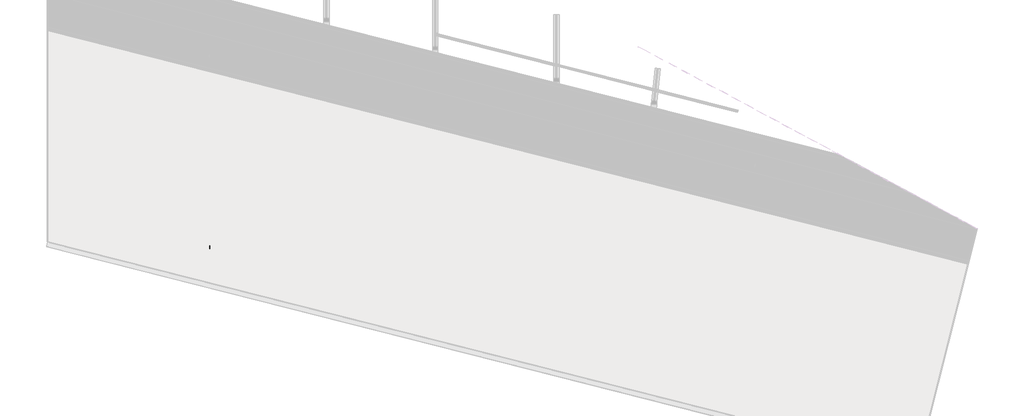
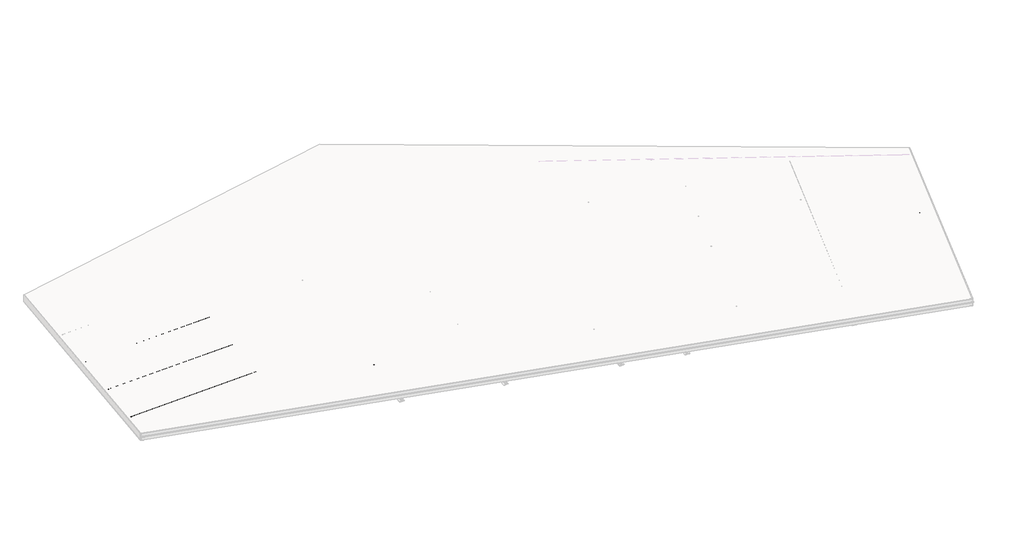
# One storey, part 3 of 10: 8 beams.
"""IFC4 building model written with IfcOpenShell, lengths in millimetres."""

from ifc_helpers import new_model, si_unit, frame, origin, place, context, project, spatial, polyline, circle_curve, ellipse_curve, transform, mapped, element, save
from ifc_brep_helpers import plane_surface, cylinder_surface, revolved_surface, advanced_brep
from components import ipe_ipe180_58f06dd5, ipe_ipe180_47fa68d9, ipe_ipe180_d82c8111, ipe_ipe180_68082427

model = new_model("IFC4")

# Units and contexts
model_context = context("Model", 3, world=origin())
ifc_project = project(units=[si_unit("LENGTHUNIT", "METRE", prefix="MILLI")], contexts=[model_context])

# Site, building, storey
site = spatial("IfcSite", under=ifc_project)
building = spatial("IfcBuilding", under=site)
storey = spatial("IfcBuildingStorey", under=building, Name="2 Toiture batiment", Elevation=872910.0)

# Beams
placement = place(None, origin())
element("IfcBeam", 1, ObjectType="IPE : IPE160", at=placement, inside=storey, context=model_context, shape_type="AdvancedBrep", body=[
    advanced_brep(
    [(29200.3644129, 1340.734446, 872989.5232206), (29200.3644129, 1310.5203842, 872985.9240678), (33048.0031572, 330.9837712, 872983.7899484), (33048.0031572, 361.197833, 872987.3891012), (29200.3644129, 1348.8204858, 872999.5540338), (33048.0031572, 369.2838728, 872997.4199144), (29290.6644129, 1309.8355583, 873125.7537158), (29290.6644129, 1312.2573229, 873106.6400261), (29201.3644129, 1334.6684761, 873109.2384349), (29200.3644129, 1335.0451461, 873108.2754081), (33048.0031572, 355.6094225, 873105.3450234), (33047.0031572, 355.7346479, 873106.3665138), (32957.7031572, 378.1426362, 873108.9899016), (32957.7031572, 376.2763159, 873123.7197674), (29290.6644129, 1299.4858994, 873133.5884357), (32957.7031572, 365.926657, 873131.5544873), (29290.6644129, 1269.2718375, 873129.9892828), (32957.7031572, 335.7125952, 873127.9553345), (29290.6644129, 1268.3412386, 873137.334002), (32957.7031572, 334.7819962, 873135.3000537), (29290.6644129, 1352.3260884, 873147.3384269), (32957.7031572, 418.766846, 873145.3044785), (29290.6644129, 1353.2566873, 873139.9937077), (32957.7031572, 419.697445, 873137.9597594), (29290.6644129, 1323.0426255, 873136.3945549), (32957.7031572, 389.4833831, 873134.3606065), (29290.6644129, 1314.9565857, 873126.3637417), (32957.7031572, 381.3973434, 873124.3297933), (29290.6644129, 1317.3803832, 873107.2340073), (32957.7031572, 383.2649731, 873109.5895929), (33047.0031572, 360.8569848, 873106.9662051), (33048.0031572, 360.7317593, 873105.9447147), (33048.0031572, 374.4049002, 872998.0299403), (29200.3644129, 1353.9415132, 873000.1640597), (29200.3644129, 1340.1682064, 873108.8693893), (29201.3644129, 1339.7915364, 873109.8324161), (29200.3644129, 1364.2911721, 872992.3293398), (33048.0031572, 384.7545592, 872990.1952204), (29200.3644129, 1394.505234, 872995.9284927), (33048.0031572, 414.968621, 872993.7943733), (29200.3644129, 1395.435833, 872988.5837735), (33048.0031572, 415.89922, 872986.4496541), (29200.3644129, 1311.4509832, 872978.5793486), (33048.0031572, 331.9143702, 872976.4452292)],
    [
        (0, 1),
        (1, 2),
        (2, 3),
        (3, 0),
        (4, 0, ellipse_curve(frame((29200.3644129, 1339.6026364, 872998.4559872), z_axis=(-1.0, 0.0, 0.0), x_axis=(0.0, -0.9999976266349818, -0.002178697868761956)), 9.2870751, 9.0)),
        (3, 5, ellipse_curve(frame((33048.0031572, 360.0660234, 872996.3218678), z_axis=(1.0, 0.0, 0.0), x_axis=(0.0, -0.999997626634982, -0.002178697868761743)), 9.2870751, 9.0)),
        (5, 4),
        (6, 7),
        (7, 8),
        (8, 9, ellipse_curve(frame((29201.3644129, 1334.7941813, 873108.2463106), z_axis=(-0.24493637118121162, -0.9618492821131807, -0.12186932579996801), x_axis=(0.9686317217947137, -0.24820333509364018, 0.012152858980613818)), 1.0314759, 1.0)),
        (9, 4),
        (5, 10),
        (10, 11, ellipse_curve(frame((33047.0031572, 355.8603518, 873105.3744006), z_axis=(-0.24493637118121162, -0.9618492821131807, -0.12186932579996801), x_axis=(0.968812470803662, -0.24767732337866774, 0.007638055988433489)), 1.0314643, 1.0)),
        (11, 12),
        (12, 13),
        (13, 6),
        (14, 6, ellipse_curve(frame((29290.6644129, 1300.617709, 873124.6556691), z_axis=(-1.0, 0.0, 0.0), x_axis=(0.0, -0.9999976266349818, -0.002178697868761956)), 9.2870751, 9.0)),
        (13, 15, ellipse_curve(frame((32957.7031572, 367.0584666, 873122.6217208), z_axis=(1.0, 0.0, 0.0), x_axis=(0.0, -0.9999976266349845, -0.0021786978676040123)), 9.2870751, 9.0)),
        (15, 14),
        (16, 14),
        (15, 17),
        (17, 16),
        (18, 16),
        (17, 19),
        (19, 18),
        (20, 18),
        (19, 21),
        (21, 20),
        (22, 20),
        (21, 23),
        (23, 22),
        (24, 22),
        (23, 25),
        (25, 24),
        (26, 24, ellipse_curve(frame((29290.6644129, 1324.1744351, 873127.4617883), z_axis=(-1.0, 0.0, 0.0), x_axis=(0.0, -0.9999976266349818, -0.002178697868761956)), 9.2870751, 9.0)),
        (25, 27, ellipse_curve(frame((32957.7031572, 390.6151927, 873125.4278399), z_axis=(1.0, 0.0, 0.0), x_axis=(0.0, -0.9999976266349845, -0.0021786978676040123)), 9.2870751, 9.0)),
        (27, 26),
        (28, 26),
        (27, 29),
        (29, 30),
        (30, 31, ellipse_curve(frame((33047.0031572, 360.9826886, 873105.9740919), z_axis=(0.24493637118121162, 0.9618492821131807, 0.12186932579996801), x_axis=(0.968812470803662, -0.24767732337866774, 0.007638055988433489)), 1.0314643, 1.0)),
        (31, 32),
        (32, 33),
        (33, 34),
        (34, 35, ellipse_curve(frame((29201.3644129, 1339.9172417, 873108.8402918), z_axis=(0.24493637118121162, 0.9618492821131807, 0.12186932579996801), x_axis=(0.9686317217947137, -0.24820333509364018, 0.012152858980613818)), 1.0314759, 1.0)),
        (35, 28),
        (36, 33, ellipse_curve(frame((29200.3644129, 1363.1593626, 873001.2621064), z_axis=(-1.0, 0.0, 0.0), x_axis=(0.0, -0.9999976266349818, -0.002178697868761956)), 9.2870751, 9.0)),
        (32, 37, ellipse_curve(frame((33048.0031572, 383.6227496, 872999.127987), z_axis=(1.0, 0.0, 0.0), x_axis=(0.0, -0.999997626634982, -0.002178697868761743)), 9.2870751, 9.0)),
        (37, 36),
        (38, 36),
        (37, 39),
        (39, 38),
        (40, 38),
        (39, 41),
        (41, 40),
        (42, 40),
        (41, 43),
        (43, 42),
        (1, 42),
        (43, 2),
        (28, 7),
        (35, 8),
        (34, 9),
        (31, 10),
        (30, 11),
        (29, 12),
    ],
    [
        plane_surface(frame((29170.1523773, 1318.2118014, 872985.9408251), z_axis=(-0.02954959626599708, -0.11823384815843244, 0.9925460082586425), x_axis=(0.9690887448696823, -0.24671180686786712, -0.0005375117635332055))),
        revolved_surface(polyline([(33052.42799607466, 368.15739189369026, 872997.4174601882), (29200.3484287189, 1348.8245550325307, 872999.5540427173)]), (29177.1120539, 1345.5222506, 872998.4688843), (0.9690887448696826, -0.24671180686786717, -0.0005375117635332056)),
        plane_surface(frame((29179.3164813, 1354.1788941, 872999.5657082), z_axis=(-0.24493637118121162, -0.9618492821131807, -0.12186932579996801), x_axis=(0.9690887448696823, -0.24671180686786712, -0.0005375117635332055))),
        revolved_surface(polyline([(32962.12799605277, 375.1498350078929, 873123.717313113), (29290.648428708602, 1309.8396275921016, 873125.7537246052)]), (29173.3533453, 1330.4829051, 873124.7207365), (0.9690887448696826, -0.24671180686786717, -0.0005375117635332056)),
        plane_surface(frame((29173.0873989, 1329.4188005, 873133.6536506), z_axis=(0.02954959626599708, 0.11823384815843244, -0.9925460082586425), x_axis=(0.9690887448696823, -0.24671180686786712, -0.0005375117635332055))),
        plane_surface(frame((29165.861776, 1301.0442466, 873130.0585055), z_axis=(-0.24493637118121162, -0.9618492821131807, -0.12186932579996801), x_axis=(0.9690887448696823, -0.24671180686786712, -0.0005375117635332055))),
        plane_surface(frame((29165.6431089, 1300.1693162, 873137.4033459), z_axis=(-0.02954959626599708, -0.11823384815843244, 0.9925460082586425), x_axis=(0.9690887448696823, -0.24671180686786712, -0.0005375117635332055))),
        plane_surface(frame((29185.7278914, 1379.0409573, 873147.3966307), z_axis=(0.24493637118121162, 0.9618492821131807, 0.12186932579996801), x_axis=(0.9690887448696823, -0.24671180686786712, -0.0005375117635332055))),
        plane_surface(frame((29185.9465584, 1379.9158878, 873140.0517902), z_axis=(0.02954959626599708, 0.11823384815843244, -0.9925460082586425), x_axis=(0.9690887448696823, -0.24671180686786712, -0.0005375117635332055))),
        revolved_surface(polyline([(32962.127996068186, 398.7065611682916, 873126.523432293), (29290.64842872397, 1333.3963537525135, 873128.5598437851)]), (29178.9868818, 1352.6054386, 873127.523731), (0.9690887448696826, -0.24671180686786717, -0.0005375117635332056)),
        plane_surface(frame((29176.7824545, 1343.9487951, 873126.4269071), z_axis=(0.24493637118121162, 0.9618492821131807, 0.12186932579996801), x_axis=(0.9690887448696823, -0.24671180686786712, -0.0005375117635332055))),
        revolved_surface(polyline([(33052.427996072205, 391.7141180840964, 873000.2235793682), (29200.348428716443, 1372.381281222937, 873002.3601618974)]), (29182.7455905, 1367.6447841, 873001.2718788), (0.9690887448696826, -0.24671180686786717, -0.0005375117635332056)),
        plane_surface(frame((29183.0115368, 1368.7088887, 872992.3389647), z_axis=(-0.02954959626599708, -0.11823384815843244, 0.9925460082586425), x_axis=(0.9690887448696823, -0.24671180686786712, -0.0005375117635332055))),
        plane_surface(frame((29190.2371598, 1397.0834425, 872995.9341098), z_axis=(0.24493637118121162, 0.9618492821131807, 0.12186932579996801), x_axis=(0.9690887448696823, -0.24671180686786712, -0.0005375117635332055))),
        plane_surface(frame((29190.4558268, 1397.958373, 872988.5892693), z_axis=(0.02954959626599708, 0.11823384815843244, -0.9925460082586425), x_axis=(0.9690887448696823, -0.24671180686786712, -0.0005375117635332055))),
        plane_surface(frame((29170.3710443, 1319.0867319, 872978.5959846), z_axis=(-0.24493637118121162, -0.9618492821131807, -0.12186932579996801), x_axis=(0.9690887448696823, -0.24671180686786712, -0.0005375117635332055))),
        plane_surface(frame((29290.6644129, 11664.8518841, 874361.9131692), z_axis=(-1.0, 0.0, 0.0), x_axis=(0.0, -0.9933456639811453, -0.11517114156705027))),
        plane_surface(frame((29290.6644129, 11671.1402284, 874307.6764959), z_axis=(0.0, -0.11517114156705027, 0.9933456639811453), x_axis=(0.0, -0.9933456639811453, -0.11517114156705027))),
        cylinder_surface(frame((29201.3644129, 5615.1745573, 873604.52501), z_axis=(0.0, -0.9933456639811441, -0.11517114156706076), x_axis=(0.0, -0.11517114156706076, 0.9933456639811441)), 1.0),
        plane_surface(frame((29200.3644129, 11671.2553996, 874306.6831503), z_axis=(-1.0, 0.0, 0.0), x_axis=(0.0, -0.9933456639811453, -0.11517114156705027))),
        plane_surface(frame((33048.0031572, 12313.5310461, 874123.9169234), z_axis=(1.0, 0.0, 0.0), x_axis=(0.0, -0.9932165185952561, -0.1162796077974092))),
        cylinder_surface(frame((33047.0031572, 5419.220341, 873698.1610717), z_axis=(0.0, -0.9932165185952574, -0.11627960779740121), x_axis=(1.0000000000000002, 0.0, 0.0)), 1.0),
        plane_surface(frame((33047.0031572, 12269.368051, 874501.1405571), z_axis=(0.0, -0.11627960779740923, 0.9932165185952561), x_axis=(0.0, -0.9932165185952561, -0.11627960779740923))),
        plane_surface(frame((32957.7031572, 12269.368051, 874501.1405571), z_axis=(1.0, 0.0, 0.0), x_axis=(0.0, -0.9932165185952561, -0.11627960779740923))),
    ],
    [
        (0, [[1, 2, 3, 4]]),
        (1, [[5, -4, 6, 7]]),
        (2, [[8, 9, 10, 11, -7, 12, 13, 14, 15, 16]]),
        (3, [[17, -16, 18, 19]]),
        (4, [[20, -19, 21, 22]]),
        (5, [[23, -22, 24, 25]]),
        (6, [[26, -25, 27, 28]]),
        (7, [[29, -28, 30, 31]]),
        (8, [[32, -31, 33, 34]]),
        (9, [[35, -34, 36, 37]]),
        (10, [[38, -37, 39, 40, 41, 42, 43, 44, 45, 46]]),
        (11, [[47, -43, 48, 49]]),
        (12, [[50, -49, 51, 52]]),
        (13, [[53, -52, 54, 55]]),
        (14, [[56, -55, 57, 58]]),
        (15, [[59, -58, 60, -2]]),
        (16, [[61, -8, -17, -20, -23, -26, -29, -32, -35, -38]]),
        (17, [[-61, -46, 62, -9]]),
        (18, [[-62, -45, 63, -10]]),
        (19, [[-63, -44, -47, -50, -53, -56, -59, -1, -5, -11]]),
        (20, [[64, -12, -6, -3, -60, -57, -54, -51, -48, -42]]),
        (21, [[-64, -41, 65, -13]]),
        (22, [[-65, -40, 66, -14]]),
        (23, [[-66, -39, -36, -33, -30, -27, -24, -21, -18, -15]]),
    ],
),
])
element("IfcBeam", 2, ObjectType="IPE : IPE160", at=placement, inside=storey, context=model_context, shape_type="AdvancedBrep", body=[
    advanced_brep(
    [(25187.3405236, 2332.1609511, 872985.9408377), (25194.5623723, 2360.5364658, 872989.5359827), (25196.4903239, 2368.1316853, 872999.5657207), (25192.5990737, 2353.1260824, 873125.8175724), (25190.1204735, 2343.4074285, 873133.6536625), (25182.8986248, 2315.0319138, 873130.0585174), (25182.672247, 2314.1589464, 873137.4033578), (25202.7465383, 2393.0332583, 873147.3966425), (25202.9729161, 2393.9062258, 873140.0518021), (25195.7510674, 2365.5307111, 873136.456657), (25193.8231158, 2357.9354916, 873126.426919), (25197.714366, 2372.9410945, 873000.1750673), (25200.1929662, 2382.6597484, 872992.3389772), (25207.4148149, 2411.0352631, 872995.9341223), (25207.6411927, 2411.9082305, 872988.5892819), (25187.5669014, 2333.0339186, 872978.5959972), (29150.9644129, 1323.096697, 872988.1731594), (29150.9644129, 1353.3107589, 872991.7642371), (29150.9644129, 1361.3967986, 873001.7928893), (29150.9644129, 1347.7194036, 873109.7448952), (29149.9644129, 1347.8445278, 873110.7661014), (29060.6644129, 1370.2432272, 873113.3630662), (29060.6644129, 1368.3892417, 873127.9960754), (29060.6644129, 1358.0395828, 873135.8335614), (29060.6644129, 1327.825521, 873132.2424837), (29060.6644129, 1326.894922, 873139.5874516), (29060.6644129, 1410.8797718, 873149.5694304), (29060.6644129, 1411.8103708, 873142.2244625), (29060.6644129, 1381.596309, 873138.6333847), (29060.6644129, 1373.5102692, 873128.6047326), (29060.6644129, 1375.3661166, 873113.9570277), (29149.9644129, 1352.9674172, 873111.3600628), (29150.9644129, 1352.8422929, 873110.3388567), (29150.9644129, 1366.5178261, 873002.4015465), (29150.9644129, 1376.867485, 872994.5640605), (29150.9644129, 1407.0815468, 872998.1551382), (29150.9644129, 1408.0121458, 872990.8101703), (29150.9644129, 1324.027296, 872980.8281915)],
    [
        (0, 1),
        (1, 2, circle_curve(frame((25194.287048, 2359.4747486, 872998.4688968), z_axis=(0.9690887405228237, -0.24671180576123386, 0.000545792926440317), x_axis=(0.2448084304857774, 0.9618818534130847, 0.12186932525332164)), 9.0)),
        (2, 3),
        (3, 4, circle_curve(frame((25190.3957978, 2344.4691457, 873124.7207485), z_axis=(0.9690887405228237, -0.24671180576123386, 0.000545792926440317), x_axis=(0.2448084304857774, 0.9618818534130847, 0.12186932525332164)), 9.0)),
        (4, 5),
        (5, 6),
        (6, 7),
        (7, 8),
        (8, 9),
        (9, 10, circle_curve(frame((25196.0263917, 2366.5924283, 873127.5237429), z_axis=(0.9690887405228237, -0.24671180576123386, 0.000545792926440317), x_axis=(0.2448084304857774, 0.9618818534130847, 0.12186932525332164)), 9.0)),
        (10, 11),
        (11, 12, circle_curve(frame((25199.9176419, 2381.5980312, 873001.2718913), z_axis=(0.9690887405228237, -0.24671180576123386, 0.000545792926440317), x_axis=(0.2448084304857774, 0.9618818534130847, 0.12186932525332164)), 9.0)),
        (12, 13),
        (13, 14),
        (14, 15),
        (15, 0),
        (0, 16),
        (16, 17),
        (17, 1),
        (17, 18, ellipse_curve(frame((29150.9644129, 1352.1789493, 873000.6973062), z_axis=(1.0, 0.0, 0.0), x_axis=(0.0, -0.9999975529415, 0.0022122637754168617)), 9.2870752, 9.0)),
        (18, 2),
        (18, 19),
        (19, 20, ellipse_curve(frame((29149.9644129, 1347.9702289, 873109.7739766), z_axis=(-0.24480843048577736, -0.9618818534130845, -0.12186932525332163), x_axis=(0.9686637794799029, -0.24807709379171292, 0.012175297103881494)), 1.0314414, 1.0)),
        (20, 21),
        (21, 22),
        (22, 3),
        (22, 23, ellipse_curve(frame((29060.6644129, 1359.1713924, 873126.9004923), z_axis=(1.0, 0.0, 0.0), x_axis=(0.0, -0.9999975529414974, 0.00221226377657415)), 9.2870752, 9.0)),
        (23, 4),
        (23, 24),
        (24, 5),
        (24, 25),
        (25, 6),
        (25, 26),
        (26, 7),
        (26, 27),
        (27, 8),
        (27, 28),
        (28, 9),
        (28, 29, ellipse_curve(frame((29060.6644129, 1382.7281185, 873129.7003156), z_axis=(1.0, 0.0, 0.0), x_axis=(0.0, -0.9999975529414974, 0.00221226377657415)), 9.2870752, 9.0)),
        (29, 10),
        (29, 30),
        (30, 31),
        (31, 32, ellipse_curve(frame((29149.9644129, 1353.0931182, 873110.367938), z_axis=(0.24480843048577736, 0.9618818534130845, 0.12186932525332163), x_axis=(0.9686637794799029, -0.24807709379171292, 0.012175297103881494)), 1.0314414, 1.0)),
        (32, 33),
        (33, 11),
        (33, 34, ellipse_curve(frame((29150.9644129, 1375.7356754, 873003.4971296), z_axis=(1.0, 0.0, 0.0), x_axis=(0.0, -0.9999975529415, 0.0022122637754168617)), 9.2870752, 9.0)),
        (34, 12),
        (34, 35),
        (35, 13),
        (35, 36),
        (36, 14),
        (36, 37),
        (37, 15),
        (37, 16),
        (32, 19),
        (31, 20),
        (30, 21),
    ],
    [
        plane_surface(frame((25195.1567199, 2363.0335885, 873062.9963199), z_axis=(-0.9690887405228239, 0.24671180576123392, -0.0005457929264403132), x_axis=(-0.030591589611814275, -0.1179685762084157, 0.992546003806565))),
        plane_surface(frame((25187.3405236, 2332.1609511, 872985.9408377), z_axis=(-0.03059158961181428, -0.1179685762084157, 0.9925460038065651), x_axis=(0.9690887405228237, -0.24671180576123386, 0.000545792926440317))),
        revolved_surface(polyline([(29155.388100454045, 1360.2706108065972, 873001.795380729), (25196.49032386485, 2368.1316852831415, 872999.5657207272)]), (25194.287048, 2359.4747486, 872998.4688968), (0.9690887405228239, -0.24671180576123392, 0.0005457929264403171)),
        plane_surface(frame((25196.4903239, 2368.1316853, 872999.5657207), z_axis=(-0.24480843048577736, -0.9618818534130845, -0.12186932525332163), x_axis=(0.9690887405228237, -0.24671180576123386, 0.000545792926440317))),
        revolved_surface(polyline([(29065.08810045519, 1367.2630539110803, 873127.9985668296), (25192.599073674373, 2353.126082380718, 873125.8175724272)]), (25190.3957978, 2344.4691457, 873124.7207485), (0.9690887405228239, -0.24671180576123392, 0.0005457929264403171)),
        plane_surface(frame((25190.1204735, 2343.4074285, 873133.6536625), z_axis=(0.03059158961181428, 0.1179685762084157, -0.9925460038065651), x_axis=(0.9690887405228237, -0.24671180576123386, 0.000545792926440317))),
        plane_surface(frame((25182.8986248, 2315.0319138, 873130.0585174), z_axis=(-0.24480843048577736, -0.9618818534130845, -0.12186932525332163), x_axis=(0.9690887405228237, -0.24671180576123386, 0.000545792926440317))),
        plane_surface(frame((25182.672247, 2314.1589464, 873137.4033578), z_axis=(-0.03059158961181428, -0.1179685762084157, 0.9925460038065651), x_axis=(0.9690887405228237, -0.24671180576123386, 0.000545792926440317))),
        plane_surface(frame((25202.7465383, 2393.0332583, 873147.3966425), z_axis=(0.24480843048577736, 0.9618818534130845, 0.12186932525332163), x_axis=(0.9690887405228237, -0.24671180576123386, 0.000545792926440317))),
        plane_surface(frame((25202.9729161, 2393.9062258, 873140.0518021), z_axis=(0.03059158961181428, 0.1179685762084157, -0.9925460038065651), x_axis=(0.9690887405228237, -0.24671180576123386, 0.000545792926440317))),
        revolved_surface(polyline([(29065.088100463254, 1390.819780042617, 873130.7983900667), (25198.229667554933, 2375.2493649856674, 873128.6205668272)]), (25196.0263917, 2366.5924283, 873127.5237429), (0.9690887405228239, -0.24671180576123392, 0.0005457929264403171)),
        plane_surface(frame((25193.8231158, 2357.9354916, 873126.426919), z_axis=(0.24480843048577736, 0.9618818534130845, 0.12186932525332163), x_axis=(0.9690887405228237, -0.24671180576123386, 0.000545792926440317))),
        revolved_surface(polyline([(29155.38810046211, 1383.827336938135, 873004.5952040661), (25202.120917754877, 2390.2549678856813, 873002.3687152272)]), (25199.9176419, 2381.5980312, 873001.2718913), (0.9690887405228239, -0.24671180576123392, 0.0005457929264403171)),
        plane_surface(frame((25200.1929662, 2382.6597484, 872992.3389772), z_axis=(-0.03059158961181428, -0.1179685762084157, 0.9925460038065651), x_axis=(0.9690887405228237, -0.24671180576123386, 0.000545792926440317))),
        plane_surface(frame((25207.4148149, 2411.0352631, 872995.9341223), z_axis=(0.24480843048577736, 0.9618818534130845, 0.12186932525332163), x_axis=(0.9690887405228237, -0.24671180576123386, 0.000545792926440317))),
        plane_surface(frame((25207.6411927, 2411.9082305, 872988.5892819), z_axis=(0.03059158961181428, 0.1179685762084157, -0.9925460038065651), x_axis=(0.9690887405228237, -0.24671180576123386, 0.000545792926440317))),
        plane_surface(frame((25187.5669014, 2333.0339186, 872978.5959972), z_axis=(-0.24480843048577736, -0.9618818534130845, -0.12186932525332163), x_axis=(0.9690887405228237, -0.24671180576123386, 0.000545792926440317))),
        plane_surface(frame((29150.9644129, 11714.882228, 873930.4038127), z_axis=(1.0, 0.0, 0.0), x_axis=(0.0, -0.9933456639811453, -0.11517114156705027))),
        cylinder_surface(frame((29149.9644129, 5615.1745573, 873604.52501), z_axis=(0.0, -0.9933456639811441, -0.11517114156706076), x_axis=(1.0, 0.0, 0.0)), 1.0),
        plane_surface(frame((29149.9644129, 11671.1402284, 874307.6764959), z_axis=(0.0, -0.11517114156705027, 0.9933456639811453), x_axis=(0.0, -0.9933456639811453, -0.11517114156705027))),
        plane_surface(frame((29060.6644129, 11671.1402284, 874307.6764959), z_axis=(1.0, 0.0, 0.0), x_axis=(0.0, -0.9933456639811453, -0.11517114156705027))),
    ],
    [
        (0, [[1, 2, 3, 4, 5, 6, 7, 8, 9, 10, 11, 12, 13, 14, 15, 16]]),
        (1, [[-1, 17, 18, 19]]),
        (2, [[-2, -19, 20, 21]]),
        (3, [[-3, -21, 22, 23, 24, 25, 26]]),
        (4, [[-4, -26, 27, 28]]),
        (5, [[-5, -28, 29, 30]]),
        (6, [[-6, -30, 31, 32]]),
        (7, [[-7, -32, 33, 34]]),
        (8, [[-8, -34, 35, 36]]),
        (9, [[-9, -36, 37, 38]]),
        (10, [[-10, -38, 39, 40]]),
        (11, [[-11, -40, 41, 42, 43, 44, 45]]),
        (12, [[-12, -45, 46, 47]]),
        (13, [[-13, -47, 48, 49]]),
        (14, [[-14, -49, 50, 51]]),
        (15, [[-15, -51, 52, 53]]),
        (16, [[-16, -53, 54, -17]]),
        (17, [[55, -22, -20, -18, -54, -52, -50, -48, -46, -44]]),
        (18, [[-55, -43, 56, -23]]),
        (19, [[-56, -42, 57, -24]]),
        (20, [[-57, -41, -39, -37, -35, -33, -31, -29, -27, -25]]),
    ],
),
])
element("IfcBeam", 3, ObjectType="IPE : IPE160", at=placement, inside=storey, context=model_context, shape_type="AdvancedBrep", body=[
    advanced_brep(
    [(25187.3174838, 3828.4175967, 873160.0408264), (25194.5398587, 3856.7929775, 873163.6359718), (25196.4692781, 3864.3878233, 873173.6657105), (25192.5965053, 3849.3775164, 873299.9175711), (25190.119052, 3839.6585705, 873307.7536618), (25182.8966771, 3811.2831898, 873304.1585164), (25182.6713743, 3810.4099487, 873311.5033574), (25202.7471282, 3889.2838883, 873321.4966428), (25202.972431, 3890.1571295, 873314.1518018), (25195.7500561, 3861.7817487, 873310.5566565), (25193.8206367, 3854.1869029, 873300.5269178), (25197.6934095, 3869.1972098, 873174.2750571), (25200.1708628, 3878.9161557, 873166.4389665), (25207.3932377, 3907.2915364, 873170.0341118), (25207.6185405, 3908.1647775, 873162.6892709), (25187.5427866, 3829.2908379, 873152.6959855), (29149.9216252, 2819.6129513, 873161.6550454), (29150.1469281, 2820.4861925, 873154.3102044), (29150.9644129, 2823.6979397, 873154.717131), (29150.9644129, 2823.7098718, 873162.174123), (29150.9644129, 2849.561539, 873165.2476734), (29150.9644129, 2857.6475788, 873175.2766261), (29150.9644129, 2843.9706731, 873283.224252), (29149.9644129, 2844.0958162, 873284.2454603), (29060.6644129, 2866.4962517, 873286.8426264), (29060.6644129, 2864.6400219, 873301.4932794), (29060.6644129, 2854.2903629, 873309.3303793), (29060.6644129, 2824.0763011, 873305.7381761), (29060.6644129, 2823.1457021, 873313.0831088), (29060.6644129, 2907.1305519, 873323.0682161), (29060.6644129, 2908.0611509, 873315.7232834), (29060.6644129, 2877.8470891, 873312.1310802), (29060.6644129, 2869.7610493, 873302.1021275), (29060.6644129, 2871.6191649, 873287.4365906), (29149.9644129, 2849.2187294, 873284.8394245), (29150.9644129, 2849.0935863, 873283.8182162), (29150.9644129, 2862.7686062, 873175.8854741), (29150.9644129, 2873.1182652, 873168.0483742), (29150.9644129, 2903.332327, 873171.6405774), (29150.9644129, 2904.262926, 873164.2956447)],
    [
        (0, 1),
        (1, 2, circle_curve(frame((25194.2658417, 3855.7309274, 873172.5688865), z_axis=(0.9690888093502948, -0.2467118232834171, 0.00039477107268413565), x_axis=(0.2448262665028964, 0.9618773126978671, 0.12186933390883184)), 9.0)),
        (2, 3),
        (3, 4, circle_curve(frame((25190.3930689, 3840.7206205, 873298.8207471), z_axis=(0.9690888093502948, -0.2467118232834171, 0.00039477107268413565), x_axis=(0.2448262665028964, 0.9618773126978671, 0.12186933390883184)), 9.0)),
        (4, 5),
        (5, 6),
        (6, 7),
        (7, 8),
        (8, 9),
        (9, 10, circle_curve(frame((25196.0240731, 3862.8437987, 873301.6237418), z_axis=(0.9690888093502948, -0.2467118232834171, 0.00039477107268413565), x_axis=(0.2448262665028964, 0.9618773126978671, 0.12186933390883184)), 9.0)),
        (10, 11),
        (11, 12, circle_curve(frame((25199.8968459, 3877.8541056, 873175.3718811), z_axis=(0.9690888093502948, -0.2467118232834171, 0.00039477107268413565), x_axis=(0.2448262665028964, 0.9618773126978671, 0.12186933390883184)), 9.0)),
        (12, 13),
        (13, 14),
        (14, 15),
        (15, 0),
        (16, 17),
        (17, 18),
        (18, 19),
        (19, 16),
        (0, 16),
        (19, 20),
        (20, 1),
        (20, 21, ellipse_curve(frame((29150.9644129, 2848.4297294, 873174.1806997), z_axis=(1.0, 0.0, 0.0), x_axis=(0.0, -0.9999987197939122, 0.0016001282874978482)), 9.2870745, 9.0)),
        (21, 2),
        (21, 22),
        (22, 23, ellipse_curve(frame((29149.9644129, 2844.2215179, 873283.2533356), z_axis=(-0.24482626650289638, -0.9618773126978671, -0.12186933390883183), x_axis=(0.9686593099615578, -0.24809469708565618, 0.01217220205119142)), 1.0314462, 1.0)),
        (23, 24),
        (24, 25),
        (25, 3),
        (25, 26, ellipse_curve(frame((29060.6644129, 2855.4221725, 873300.397353), z_axis=(1.0, 0.0, 0.0), x_axis=(0.0, -0.9999987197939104, 0.001600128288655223)), 9.2870745, 9.0)),
        (26, 4),
        (26, 27),
        (27, 5),
        (27, 28),
        (28, 6),
        (28, 29),
        (29, 7),
        (29, 30),
        (30, 8),
        (30, 31),
        (31, 9),
        (31, 32, ellipse_curve(frame((29060.6644129, 2878.9788987, 873303.1980539), z_axis=(1.0, 0.0, 0.0), x_axis=(0.0, -0.9999987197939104, 0.001600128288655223)), 9.2870745, 9.0)),
        (32, 10),
        (32, 33),
        (33, 34),
        (34, 35, ellipse_curve(frame((29149.9644129, 2849.3444311, 873283.8472998), z_axis=(0.24482626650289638, 0.9618773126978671, 0.12186933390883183), x_axis=(0.9686593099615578, -0.24809469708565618, 0.01217220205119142)), 1.0314462, 1.0)),
        (35, 36),
        (36, 11),
        (36, 37, ellipse_curve(frame((29150.9644129, 2871.9864556, 873176.9814005), z_axis=(1.0, 0.0, 0.0), x_axis=(0.0, -0.9999987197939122, 0.0016001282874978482)), 9.2870745, 9.0)),
        (37, 12),
        (37, 38),
        (38, 13),
        (38, 39),
        (39, 14),
        (39, 18),
        (17, 15),
        (35, 22),
        (34, 23),
        (33, 24),
    ],
    [
        plane_surface(frame((25195.1449574, 3859.2873631, 873237.0963141), z_axis=(-0.969088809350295, 0.24671182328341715, -0.0003947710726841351), x_axis=(-0.030446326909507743, -0.11800555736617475, 0.9925460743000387))),
        plane_surface(frame((29157.7490988, 2850.4827177, 873238.710533), z_axis=(0.969088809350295, -0.24671182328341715, 0.0003947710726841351), x_axis=(-0.030446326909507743, -0.11800555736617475, 0.9925460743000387))),
        plane_surface(frame((25187.3174838, 3828.4175967, 873160.0408264), z_axis=(-0.030446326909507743, -0.11800555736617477, 0.9925460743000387), x_axis=(0.9690888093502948, -0.2467118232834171, 0.00039477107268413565))),
        revolved_surface(polyline([(29155.388258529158, 2856.5213506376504, 873175.2784282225), (25196.469278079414, 3864.3878232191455, 873173.6657105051)]), (25194.2658417, 3855.7309274, 873172.5688865), (0.9690888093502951, -0.24671182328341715, 0.00039477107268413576)),
        plane_surface(frame((25196.4692781, 3864.3878233, 873173.6657105), z_axis=(-0.24482626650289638, -0.9618773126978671, -0.12186933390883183), x_axis=(0.9690888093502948, -0.2467118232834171, 0.00039477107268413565))),
        revolved_surface(polyline([(29065.08825853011, 2863.513793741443, 873301.4950815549), (25192.596505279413, 3849.3775163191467, 873299.9175711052)]), (25190.3930689, 3840.7206205, 873298.8207471), (0.9690888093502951, -0.24671182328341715, 0.00039477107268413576)),
        plane_surface(frame((25190.119052, 3839.6585705, 873307.7536618), z_axis=(0.030446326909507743, 0.11800555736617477, -0.9925460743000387), x_axis=(0.9690888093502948, -0.2467118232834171, 0.00039477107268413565))),
        plane_surface(frame((25182.8966771, 3811.2831898, 873304.1585164), z_axis=(-0.24482626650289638, -0.9618773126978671, -0.12186933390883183), x_axis=(0.9690888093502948, -0.2467118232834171, 0.00039477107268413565))),
        plane_surface(frame((25182.6713743, 3810.4099487, 873311.5033574), z_axis=(-0.030446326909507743, -0.11800555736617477, 0.9925460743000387), x_axis=(0.9690888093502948, -0.2467118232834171, 0.00039477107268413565))),
        plane_surface(frame((25202.7471282, 3889.2838883, 873321.4966428), z_axis=(0.24482626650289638, 0.9618773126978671, 0.12186933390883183), x_axis=(0.9690888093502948, -0.2467118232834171, 0.00039477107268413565))),
        plane_surface(frame((25202.972431, 3890.1571295, 873314.1518018), z_axis=(0.030446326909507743, 0.11800555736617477, -0.9925460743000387), x_axis=(0.9690888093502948, -0.2467118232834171, 0.00039477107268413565))),
        revolved_surface(polyline([(29065.088258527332, 2887.0705199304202, 873304.2957823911), (25198.22750944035, 3871.500694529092, 873302.7205658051)]), (25196.0240731, 3862.8437987, 873301.6237418), (0.9690888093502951, -0.24671182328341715, 0.00039477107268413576)),
        plane_surface(frame((25193.8206367, 3854.1869029, 873300.5269178), z_axis=(0.24482626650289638, 0.9618773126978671, 0.12186933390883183), x_axis=(0.9690888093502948, -0.2467118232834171, 0.00039477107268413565))),
        revolved_surface(polyline([(29155.38825852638, 2880.0780768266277, 873178.0791289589), (25202.100282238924, 3886.511001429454, 873176.4687051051)]), (25199.8968459, 3877.8541056, 873175.3718811), (0.9690888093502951, -0.24671182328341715, 0.00039477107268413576)),
        plane_surface(frame((25200.1708628, 3878.9161557, 873166.4389665), z_axis=(-0.030446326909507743, -0.11800555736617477, 0.9925460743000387), x_axis=(0.9690888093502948, -0.2467118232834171, 0.00039477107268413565))),
        plane_surface(frame((25207.3932377, 3907.2915364, 873170.0341118), z_axis=(0.24482626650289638, 0.9618773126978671, 0.12186933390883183), x_axis=(0.9690888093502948, -0.2467118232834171, 0.00039477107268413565))),
        plane_surface(frame((25207.6185405, 3908.1647775, 873162.6892709), z_axis=(0.030446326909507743, 0.11800555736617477, -0.9925460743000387), x_axis=(0.9690888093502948, -0.2467118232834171, 0.00039477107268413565))),
        plane_surface(frame((25187.5427866, 3829.2908379, 873152.6959855), z_axis=(-0.24482626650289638, -0.9618773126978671, -0.12186933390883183), x_axis=(0.9690888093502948, -0.2467118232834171, 0.00039477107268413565))),
        plane_surface(frame((29150.9644129, 11714.882228, 873930.4038127), z_axis=(1.0, 0.0, 0.0), x_axis=(0.0, -0.9933456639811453, -0.11517114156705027))),
        cylinder_surface(frame((29149.9644129, 5615.1745573, 873604.52501), z_axis=(0.0, -0.9933456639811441, -0.11517114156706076), x_axis=(1.0, 0.0, 0.0)), 1.0),
        plane_surface(frame((29149.9644129, 11671.1402284, 874307.6764959), z_axis=(0.0, -0.11517114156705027, 0.9933456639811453), x_axis=(0.0, -0.9933456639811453, -0.11517114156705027))),
        plane_surface(frame((29060.6644129, 11671.1402284, 874307.6764959), z_axis=(1.0, 0.0, 0.0), x_axis=(0.0, -0.9933456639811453, -0.11517114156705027))),
    ],
    [
        (0, [[1, 2, 3, 4, 5, 6, 7, 8, 9, 10, 11, 12, 13, 14, 15, 16]]),
        (1, [[17, 18, 19, 20]]),
        (2, [[-1, 21, -20, 22, 23]]),
        (3, [[-2, -23, 24, 25]]),
        (4, [[-3, -25, 26, 27, 28, 29, 30]]),
        (5, [[-4, -30, 31, 32]]),
        (6, [[-5, -32, 33, 34]]),
        (7, [[-6, -34, 35, 36]]),
        (8, [[-7, -36, 37, 38]]),
        (9, [[-8, -38, 39, 40]]),
        (10, [[-9, -40, 41, 42]]),
        (11, [[-10, -42, 43, 44]]),
        (12, [[-11, -44, 45, 46, 47, 48, 49]]),
        (13, [[-12, -49, 50, 51]]),
        (14, [[-13, -51, 52, 53]]),
        (15, [[-14, -53, 54, 55]]),
        (16, [[-15, -55, 56, -18, 57]]),
        (17, [[-16, -57, -17, -21]]),
        (18, [[58, -26, -24, -22, -19, -56, -54, -52, -50, -48]]),
        (19, [[-58, -47, 59, -27]]),
        (20, [[-59, -46, 60, -28]]),
        (21, [[-60, -45, -43, -41, -39, -37, -35, -33, -31, -29]]),
    ],
),
])
element("IfcBeam", 4, ObjectType="IPE : IPE160", at=placement, inside=storey, context=model_context, shape_type="AdvancedBrep", body=[
    advanced_brep(
    [(51292.3832463, -774.9593482, 873399.0408142), (51292.6057392, -774.0853917, 873391.6959727), (51312.6853162, -695.2124254, 873401.6892588), (51312.4628233, -696.0863819, 873409.0341003), (51305.239073, -724.4614124, 873405.4389547), (51302.7646175, -734.1811215, 873413.275046), (51298.9401447, -749.2037246, 873539.5269165), (51300.8734012, -741.6098557, 873549.5566559), (51308.0971515, -713.2348251, 873553.1518016), (51307.8746586, -714.1087816, 873560.4966431), (51287.7950816, -792.9817479, 873550.5033569), (51288.0175745, -792.1077914, 873543.1585154), (51295.2413248, -763.7327609, 873546.753661), (51297.7157803, -754.0130518, 873538.9175698), (51301.5402531, -738.9904487, 873412.6656993), (51299.6069966, -746.5843176, 873402.6359598), (47423.9716271, 240.0797106, 873402.6359598), (47416.7478768, 211.7046801, 873399.0408142), (47425.9048836, 247.6735796, 873412.6656993), (47500.5766104, 212.6673172, 873538.9175698), (47501.0654187, 214.5873654, 873522.7812402), (47422.569219, 234.5710246, 873522.7812402), (47498.1021549, 202.9476082, 873546.753661), (47490.8784047, 174.5725776, 873543.1585154), (47490.6559118, 173.6986211, 873550.5033569), (47510.7354887, 252.5715875, 873560.4966431), (47510.9579817, 253.4455439, 873553.1518016), (47503.7342314, 225.0705134, 873549.5566559), (47501.8009749, 217.4766444, 873539.5269165), (47427.129248, 252.4829068, 873413.275046), (47423.7938699, 239.381477, 873523.3811309), (47502.2900696, 219.3978177, 873523.3811309), (47429.6037035, 262.2026158, 873405.4389547), (47436.8274538, 290.5776464, 873409.0341003), (47437.0499467, 291.4516029, 873401.6892588), (47416.9703697, 212.5786365, 873391.6959727)],
    [
        (0, 1),
        (1, 2),
        (2, 3),
        (3, 4),
        (4, 5, circle_curve(frame((51304.9684735, -725.5243325, 873414.3718701), z_axis=(-0.9690888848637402, 0.24671184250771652, 0.0), x_axis=(0.244872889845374, 0.9618654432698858, 0.12186934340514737)), 9.0)),
        (5, 6),
        (6, 7, circle_curve(frame((51301.1440007, -740.5469356, 873540.6237406), z_axis=(-0.9690888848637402, 0.24671184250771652, 0.0), x_axis=(0.244872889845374, 0.9618654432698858, 0.12186934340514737)), 9.0)),
        (7, 8),
        (8, 9),
        (9, 10),
        (10, 11),
        (11, 12),
        (12, 13, circle_curve(frame((51295.5119242, -762.6698408, 873537.8207457), z_axis=(-0.9690888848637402, 0.24671184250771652, 0.0), x_axis=(0.244872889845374, 0.9618654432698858, 0.12186934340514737)), 9.0)),
        (13, 14),
        (14, 15, circle_curve(frame((51299.3363971, -747.6472377, 873411.5688752), z_axis=(-0.9690888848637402, 0.24671184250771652, 0.0), x_axis=(0.244872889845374, 0.9618654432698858, 0.12186934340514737)), 9.0)),
        (15, 0),
        (15, 16),
        (16, 17),
        (17, 0),
        (14, 18),
        (18, 16, circle_curve(frame((47423.7010276, 239.0167906, 873411.5688752), z_axis=(-0.9690888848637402, 0.24671184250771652, 0.0), x_axis=(0.244872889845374, 0.9618654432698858, 0.12186934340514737)), 9.0)),
        (13, 19),
        (19, 20),
        (20, 21),
        (21, 18),
        (12, 22),
        (22, 19, circle_curve(frame((47498.3727544, 204.0105282, 873537.8207457), z_axis=(-0.9690888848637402, 0.24671184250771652, 0.0), x_axis=(0.244872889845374, 0.9618654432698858, 0.12186934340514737)), 9.0)),
        (11, 23),
        (23, 22),
        (10, 24),
        (24, 23),
        (9, 25),
        (25, 24),
        (8, 26),
        (26, 25),
        (7, 27),
        (27, 26),
        (6, 28),
        (28, 27, circle_curve(frame((47504.0048309, 226.1334334, 873540.6237406), z_axis=(-0.9690888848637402, 0.24671184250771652, 0.0), x_axis=(0.244872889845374, 0.9618654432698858, 0.12186934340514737)), 9.0)),
        (5, 29),
        (29, 30),
        (30, 31),
        (31, 28),
        (4, 32),
        (32, 29, circle_curve(frame((47429.3331041, 261.1396958, 873414.3718701), z_axis=(-0.9690888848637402, 0.24671184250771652, 0.0), x_axis=(0.244872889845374, 0.9618654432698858, 0.12186934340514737)), 9.0)),
        (3, 33),
        (33, 32),
        (2, 34),
        (34, 33),
        (1, 35),
        (35, 34),
        (17, 35),
        (31, 20),
        (30, 21),
    ],
    [
        plane_surface(frame((51300.2401989, -744.0970867, 873476.0963079), z_axis=(0.9690888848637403, -0.24671184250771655, 0.0), x_axis=(-0.03006661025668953, -0.11810222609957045, 0.992546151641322))),
        plane_surface(frame((47391.8004847, 218.0558179, 873399.0408142), z_axis=(-0.030066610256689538, -0.11810222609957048, 0.9925461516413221), x_axis=(0.9690888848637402, -0.24671184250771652, 0.0))),
        revolved_surface(polyline([(51301.540253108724, -738.9904487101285, 873412.6656992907), (47425.90488359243, 247.673579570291, 873412.6656992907)]), (47398.7536355, 245.3679284, 873411.5688752), (0.9690888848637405, -0.24671184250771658, 0.0)),
        plane_surface(frame((47400.9574915, 254.0247174, 873412.6656993), z_axis=(-0.24487288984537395, -0.9618654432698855, -0.12186934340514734), x_axis=(0.9690888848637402, -0.24671184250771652, 0.0))),
        revolved_surface(polyline([(51297.71578031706, -754.0130518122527, 873538.9175697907), (47500.57661040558, 212.66731724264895, 873538.9175697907)]), (47394.9291627, 230.3453253, 873537.8207457), (0.9690888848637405, -0.24671184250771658, 0.0)),
        plane_surface(frame((47394.6585632, 229.2824052, 873546.753661), z_axis=(0.030066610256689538, 0.11810222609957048, -0.9925461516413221), x_axis=(0.9690888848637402, -0.24671184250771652, 0.0))),
        plane_surface(frame((47387.4348129, 200.9073746, 873543.1585154), z_axis=(-0.24487288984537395, -0.9618654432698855, -0.12186934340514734), x_axis=(0.9690888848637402, -0.24671184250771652, 0.0))),
        plane_surface(frame((47387.21232, 200.0334182, 873550.5033569), z_axis=(-0.030066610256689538, -0.11810222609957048, 0.9925461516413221), x_axis=(0.9690888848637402, -0.24671184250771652, 0.0))),
        plane_surface(frame((47407.291897, 278.9063845, 873560.4966431), z_axis=(0.24487288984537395, 0.9618654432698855, 0.12186934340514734), x_axis=(0.9690888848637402, -0.24671184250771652, 0.0))),
        plane_surface(frame((47407.5143899, 279.780341, 873553.1518016), z_axis=(0.030066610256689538, 0.11810222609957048, -0.9925461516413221), x_axis=(0.9690888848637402, -0.24671184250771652, 0.0))),
        revolved_surface(polyline([(51303.34785671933, -731.8901466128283, 873541.7205646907), (47506.208686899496, 234.7902224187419, 873541.7205646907)]), (47400.5612391, 252.4682305, 873540.6237406), (0.9690888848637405, -0.24671184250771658, 0.0)),
        plane_surface(frame((47398.3573831, 243.8114415, 873539.5269165), z_axis=(0.24487288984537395, 0.9618654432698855, 0.12186934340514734), x_axis=(0.9690888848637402, -0.24671184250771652, 0.0))),
        revolved_surface(polyline([(51307.17232952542, -716.8675434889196, 873415.4686941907), (47431.536960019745, 269.79648478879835, 873415.4686941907)]), (47404.385712, 267.4908336, 873414.3718701), (0.9690888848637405, -0.24671184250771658, 0.0)),
        plane_surface(frame((47404.6563115, 268.5537536, 873405.4389547), z_axis=(-0.030066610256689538, -0.11810222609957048, 0.9925461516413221), x_axis=(0.9690888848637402, -0.24671184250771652, 0.0))),
        plane_surface(frame((47411.8800617, 296.9287842, 873409.0341003), z_axis=(0.24487288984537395, 0.9618654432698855, 0.12186934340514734), x_axis=(0.9690888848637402, -0.24671184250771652, 0.0))),
        plane_surface(frame((47412.1025546, 297.8027407, 873401.6892588), z_axis=(0.030066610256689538, 0.11810222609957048, -0.9925461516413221), x_axis=(0.9690888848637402, -0.24671184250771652, 0.0))),
        plane_surface(frame((47392.0229777, 218.9297744, 873391.6959727), z_axis=(-0.24487288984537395, -0.9618654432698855, -0.12186934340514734), x_axis=(0.9690888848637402, -0.24671184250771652, 0.0))),
        plane_surface(frame((48468.6494081, 4015.2759737, 874049.8321259), z_axis=(-0.9690888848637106, 0.24671184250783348, 0.0), x_axis=(-0.24492973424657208, -0.9620887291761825, -0.11997792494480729))),
        plane_surface(frame((48470.2093268, 4021.4033644, 873997.5128012), z_axis=(-0.029599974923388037, -0.1162692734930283, 0.992776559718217), x_axis=(-0.24492973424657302, -0.9620887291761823, -0.11997792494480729))),
        plane_surface(frame((48391.7131271, 4041.3870236, 873997.5128012), z_axis=(-0.9690888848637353, 0.24671184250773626, 0.0), x_axis=(-0.24492973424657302, -0.9620887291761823, -0.11997792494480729))),
    ],
    [
        (0, [[1, 2, 3, 4, 5, 6, 7, 8, 9, 10, 11, 12, 13, 14, 15, 16]]),
        (1, [[-16, 17, 18, 19]]),
        (2, [[-15, 20, 21, -17]]),
        (3, [[-14, 22, 23, 24, 25, -20]]),
        (4, [[-13, 26, 27, -22]]),
        (5, [[-12, 28, 29, -26]]),
        (6, [[-11, 30, 31, -28]]),
        (7, [[-10, 32, 33, -30]]),
        (8, [[-9, 34, 35, -32]]),
        (9, [[-8, 36, 37, -34]]),
        (10, [[-7, 38, 39, -36]]),
        (11, [[-6, 40, 41, 42, 43, -38]]),
        (12, [[-5, 44, 45, -40]]),
        (13, [[-4, 46, 47, -44]]),
        (14, [[-3, 48, 49, -46]]),
        (15, [[-2, 50, 51, -48]]),
        (16, [[-1, -19, 52, -50]]),
        (17, [[53, -23, -27, -29, -31, -33, -35, -37, -39, -43]]),
        (18, [[-53, -42, 54, -24]]),
        (19, [[-54, -41, -45, -47, -49, -51, -52, -18, -21, -25]]),
    ],
),
])
ipe_ipe180_shape = ipe_ipe180_58f06dd5(model_context)
element("IfcBeam", 5, ObjectType="IPE : IPE180", at=placement, inside=storey, context=model_context, shape_type="MappedRepresentation", body=[
    mapped(ipe_ipe180_shape, transform((23244.7922795, 1582.894507, 872920.4086399), x_axis=(-0.9998622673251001, 0.0, -0.016596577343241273), y_axis=(0.0, -1.0000000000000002, 0.0), z_axis=(-0.016596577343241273, 0.0, 0.9998622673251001))),
])
ipe_ipe180_2_shape = ipe_ipe180_47fa68d9(model_context)
element("IfcBeam", 6, ObjectType="IPE : IPE180", at=placement, inside=storey, context=model_context, shape_type="MappedRepresentation", body=[
    mapped(ipe_ipe180_2_shape, transform((22325.9321858, 3297.9167401, 873072.6940037), x_axis=(0.9995603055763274, 0.0, 0.029651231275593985), y_axis=(0.0, 0.9999999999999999, 0.0), z_axis=(-0.029651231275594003, 0.0, 0.9995603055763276))),
])
ipe_ipe180_3_shape = ipe_ipe180_d82c8111(model_context)
element("IfcBeam", 7, ObjectType="IPE : IPE180", at=placement, inside=storey, context=model_context, shape_type="MappedRepresentation", body=[
    mapped(ipe_ipe180_3_shape, transform((22185.6440186, 5012.2167401, 873265.8919457), x_axis=(0.9995751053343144, 0.0, 0.029148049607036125), y_axis=(0.0, 1.0, 0.0), z_axis=(-0.029148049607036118, 0.0, 0.9995751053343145))),
])
ipe_ipe180_4_shape = ipe_ipe180_68082427(model_context)
element("IfcBeam", 8, ObjectType="IPE : IPE180", at=placement, inside=storey, context=model_context, shape_type="MappedRepresentation", body=[
    mapped(ipe_ipe180_4_shape, transform((22317.0950721, 6726.4955228, 873475.3701317), x_axis=(0.9995415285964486, 0.0, 0.03027759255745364), y_axis=(0.0, 1.0000000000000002, 0.0), z_axis=(-0.030277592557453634, 0.0, 0.9995415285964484))),
])

save(model, "model.ifc")
